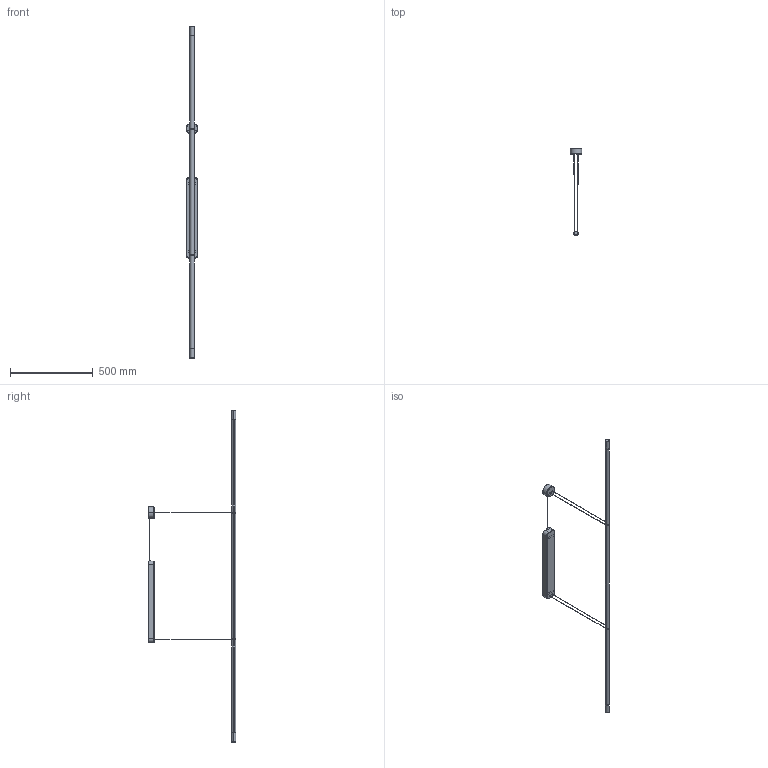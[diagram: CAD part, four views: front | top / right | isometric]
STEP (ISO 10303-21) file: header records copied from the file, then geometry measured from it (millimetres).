
FILE_DESCRIPTION (( 'STEP AP203' ), '1' );
FILE_NAME ('volta_assieme_200.STEP', '2015-12-29T15:54:21', ( 'admin' ), ( 'Hewlett-Packard Company' ), 'SwSTEP 2.0', 'SolidWorks 2015', '' );
FILE_SCHEMA (( 'CONFIG_CONTROL_DESIGN' ));
Length unit declared in the file: millimetre
Products named in the file (1): volta_assieme_200
Bounding box: 70.15 x 528.17 x 2004 mm (x, y, z)
Surface area: 331619.2 mm2 (no closed solid volume)
Topology: 0 solids, 28 shells, 118 faces, 377 edges, 270 vertices
Faces by surface type: cylinder 67, plane 23, torus 16, bspline 8, cone 4
Entity records: 4428 total; most frequent: CARTESIAN_POINT 932, DIRECTION 826, ORIENTED_EDGE 552, EDGE_CURVE 377, AXIS2_PLACEMENT_3D 340, VERTEX_POINT 270, CIRCLE 229, VECTOR 146
